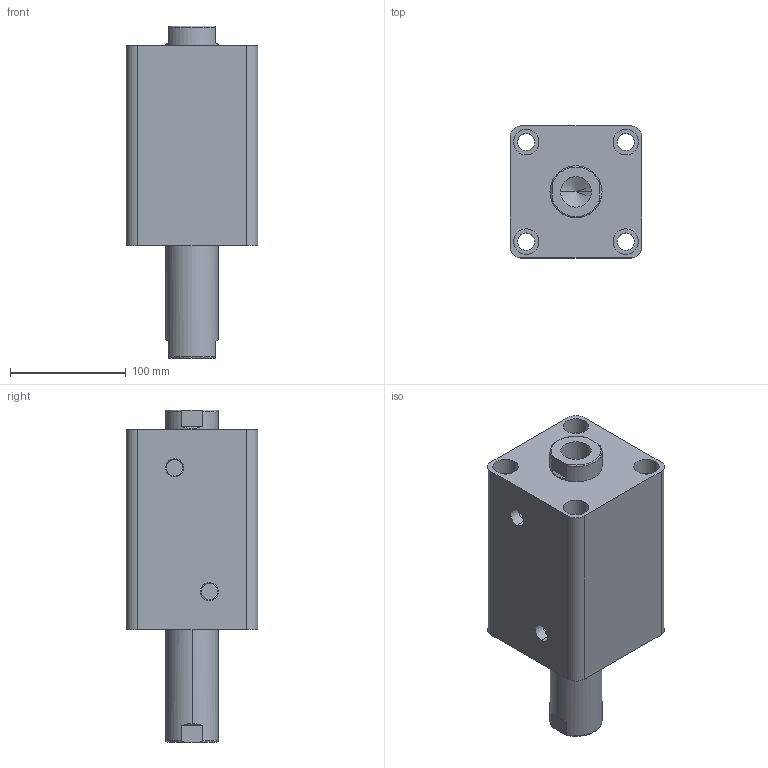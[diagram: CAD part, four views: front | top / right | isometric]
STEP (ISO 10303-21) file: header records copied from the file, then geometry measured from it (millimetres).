
FILE_DESCRIPTION (( 'STEP AP203' ), '1' );
FILE_NAME ('HTB-SW80-80N.STEP', '2019-10-07T10:26:04', ( '微软用户' ), ( '微软中国' ), 'SwSTEP 2.0', 'SolidWorks 2012', '' );
FILE_SCHEMA (( 'CONFIG_CONTROL_DESIGN' ));
Length unit declared in the file: millimetre
Products named in the file (3): HTB-SW80-80N; HTB-SW80-80N活塞杆; HTB-SW80-80掛极
Assembly tree (2 placements, depth 2):
  HTB-SW80-80N
    HTB-SW80-80掛极
    HTB-SW80-80N活塞杆
Bounding box: 114 x 114 x 287 mm (x, y, z)
Volume: 1957114.6 mm3; surface area: 235236.3 mm2
Topology: 2 solids, 2 shells, 100 faces, 228 edges, 146 vertices
Faces by surface type: cylinder 48, plane 32, torus 12, cone 8
Entity records: 3237 total; most frequent: CARTESIAN_POINT 595, DIRECTION 542, ORIENTED_EDGE 448, AXIS2_PLACEMENT_3D 229, EDGE_CURVE 224, VERTEX_POINT 146, EDGE_LOOP 128, CIRCLE 124
